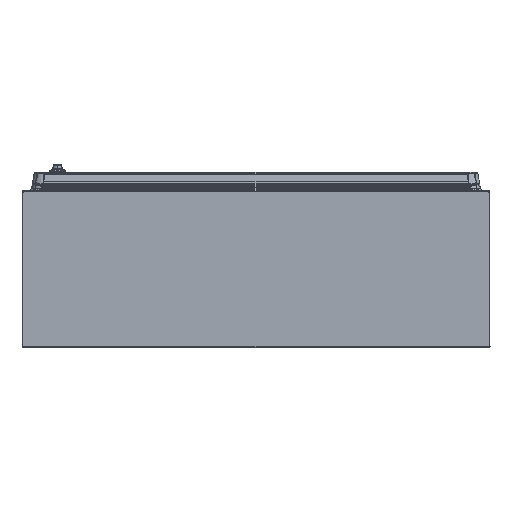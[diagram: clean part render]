
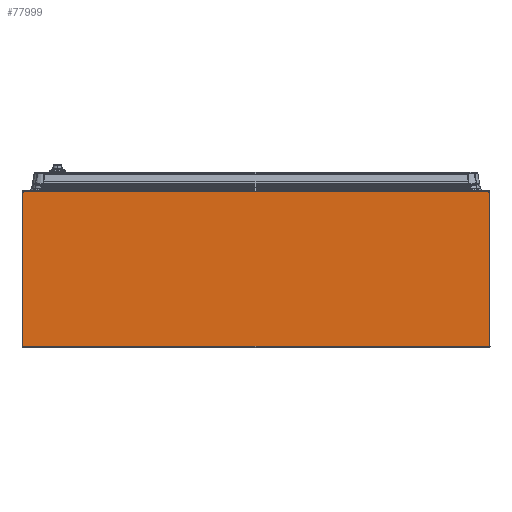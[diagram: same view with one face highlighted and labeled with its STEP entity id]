
A CAD part, front view. The second image highlights one B-rep face of the part: STEP entity #77999.
In plain terms, the highlighted planar face has unit normal (0, -1, 0).
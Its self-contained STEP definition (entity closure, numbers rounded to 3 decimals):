
#984 = FACE_OUTER_BOUND ( 'NONE', #15726, .T. ) ;
#1353 = CARTESIAN_POINT ( 'NONE',  ( 267., -500., 398.429 ) ) ;
#2606 = VERTEX_POINT ( 'NONE', #104306 ) ;
#3758 = CARTESIAN_POINT ( 'NONE',  ( 267., -500., -397.75 ) ) ;
#4325 = DIRECTION ( 'NONE',  ( 1., 0., 0. ) ) ;
#5176 = ORIENTED_EDGE ( 'NONE', *, *, #46435, .F. ) ;
#5954 = LINE ( 'NONE', #104796, #45808 ) ;
#6219 = EDGE_CURVE ( 'NONE', #23445, #89350, #28648, .T. ) ;
#6938 = PLANE ( 'NONE',  #79891 ) ;
#7989 = DIRECTION ( 'NONE',  ( 0., 0., 1. ) ) ;
#9735 = AXIS2_PLACEMENT_3D ( 'NONE', #36320, #100614, #28685 ) ;
#10539 = EDGE_CURVE ( 'NONE', #16988, #23445, #5954, .T. ) ;
#11572 = DIRECTION ( 'NONE',  ( 0., -1., 0. ) ) ;
#12779 = CARTESIAN_POINT ( 'NONE',  ( 267., -500., 397.75 ) ) ;
#13169 = LINE ( 'NONE', #14751, #101168 ) ;
#13470 = DIRECTION ( 'NONE',  ( 0., -1., 0. ) ) ;
#14751 = CARTESIAN_POINT ( 'NONE',  ( 3., -500., 0. ) ) ;
#15726 = EDGE_LOOP ( 'NONE', ( #33711, #74928, #72545, #35895, #90870, #65319, #97888, #5176 ) ) ;
#16988 = VERTEX_POINT ( 'NONE', #60763 ) ;
#17545 = LINE ( 'NONE', #1353, #61704 ) ;
#18380 = EDGE_CURVE ( 'NONE', #89350, #77850, #44924, .T. ) ;
#19165 = DIRECTION ( 'NONE',  ( -1., 0., 0. ) ) ;
#23445 = VERTEX_POINT ( 'NONE', #31263 ) ;
#27333 = CIRCLE ( 'NONE', #32529, 32. ) ;
#28648 = CIRCLE ( 'NONE', #63259, 3.5 ) ;
#28685 = DIRECTION ( 'NONE',  ( -1., 0., 0. ) ) ;
#29067 = CARTESIAN_POINT ( 'NONE',  ( 264.926, -500., -394.929 ) ) ;
#31263 = CARTESIAN_POINT ( 'NONE',  ( 264.926, -500., -398.429 ) ) ;
#32529 = AXIS2_PLACEMENT_3D ( 'NONE', #76422, #11572, #19165 ) ;
#33711 = ORIENTED_EDGE ( 'NONE', *, *, #10539, .T. ) ;
#35895 = ORIENTED_EDGE ( 'NONE', *, *, #93657, .T. ) ;
#36320 = CARTESIAN_POINT ( 'NONE',  ( 264.926, -500., 394.929 ) ) ;
#36539 = CARTESIAN_POINT ( 'NONE',  ( 266.942, -500., -397.791 ) ) ;
#37901 = CARTESIAN_POINT ( 'NONE',  ( 264.926, -500., 398.429 ) ) ;
#38036 = DIRECTION ( 'NONE',  ( 0., 0., 1. ) ) ;
#44277 = DIRECTION ( 'NONE',  ( 0., -1., 0. ) ) ;
#44924 = CIRCLE ( 'NONE', #105304, 32. ) ;
#45808 = VECTOR ( 'NONE', #56159, 1000. ) ;
#46238 = DIRECTION ( 'NONE',  ( 0., 0., 1. ) ) ;
#46435 = EDGE_CURVE ( 'NONE', #16988, #2606, #13169, .T. ) ;
#47319 = CARTESIAN_POINT ( 'NONE',  ( 267., -500., 0. ) ) ;
#54511 = DIRECTION ( 'NONE',  ( -1., 0., 0. ) ) ;
#55035 = VERTEX_POINT ( 'NONE', #12779 ) ;
#55615 = CARTESIAN_POINT ( 'NONE',  ( 248.514, -500., -371.629 ) ) ;
#56159 = DIRECTION ( 'NONE',  ( 1., 0., 0. ) ) ;
#57691 = DIRECTION ( 'NONE',  ( 0., 1., 0. ) ) ;
#60763 = CARTESIAN_POINT ( 'NONE',  ( 3., -500., -398.429 ) ) ;
#60887 = LINE ( 'NONE', #47319, #66695 ) ;
#61704 = VECTOR ( 'NONE', #67247, 1000. ) ;
#63259 = AXIS2_PLACEMENT_3D ( 'NONE', #29067, #44277, #54511 ) ;
#65319 = ORIENTED_EDGE ( 'NONE', *, *, #97001, .T. ) ;
#66695 = VECTOR ( 'NONE', #46238, 1000. ) ;
#67247 = DIRECTION ( 'NONE',  ( 1., 0., 0. ) ) ;
#70623 = VERTEX_POINT ( 'NONE', #37901 ) ;
#71790 = CIRCLE ( 'NONE', #9735, 3.5 ) ;
#72545 = ORIENTED_EDGE ( 'NONE', *, *, #18380, .T. ) ;
#74928 = ORIENTED_EDGE ( 'NONE', *, *, #6219, .T. ) ;
#76422 = CARTESIAN_POINT ( 'NONE',  ( 248.514, -500., 371.629 ) ) ;
#77366 = CARTESIAN_POINT ( 'NONE',  ( 266.942, -500., 397.791 ) ) ;
#77850 = VERTEX_POINT ( 'NONE', #3758 ) ;
#77999 = ADVANCED_FACE ( 'NONE', ( #984 ), #6938, .F. ) ;
#79891 = AXIS2_PLACEMENT_3D ( 'NONE', #80938, #57691, #7989 ) ;
#80938 = CARTESIAN_POINT ( 'NONE',  ( 267., -500., 0. ) ) ;
#83647 = EDGE_CURVE ( 'NONE', #2606, #70623, #17545, .T. ) ;
#89350 = VERTEX_POINT ( 'NONE', #36539 ) ;
#90870 = ORIENTED_EDGE ( 'NONE', *, *, #95785, .T. ) ;
#93657 = EDGE_CURVE ( 'NONE', #77850, #55035, #60887, .T. ) ;
#94275 = VERTEX_POINT ( 'NONE', #77366 ) ;
#95785 = EDGE_CURVE ( 'NONE', #55035, #94275, #27333, .T. ) ;
#97001 = EDGE_CURVE ( 'NONE', #94275, #70623, #71790, .T. ) ;
#97888 = ORIENTED_EDGE ( 'NONE', *, *, #83647, .F. ) ;
#100614 = DIRECTION ( 'NONE',  ( 0., -1., 0. ) ) ;
#101168 = VECTOR ( 'NONE', #38036, 1000. ) ;
#104306 = CARTESIAN_POINT ( 'NONE',  ( 3., -500., 398.429 ) ) ;
#104796 = CARTESIAN_POINT ( 'NONE',  ( 267., -500., -398.429 ) ) ;
#105304 = AXIS2_PLACEMENT_3D ( 'NONE', #55615, #13470, #4325 ) ;
